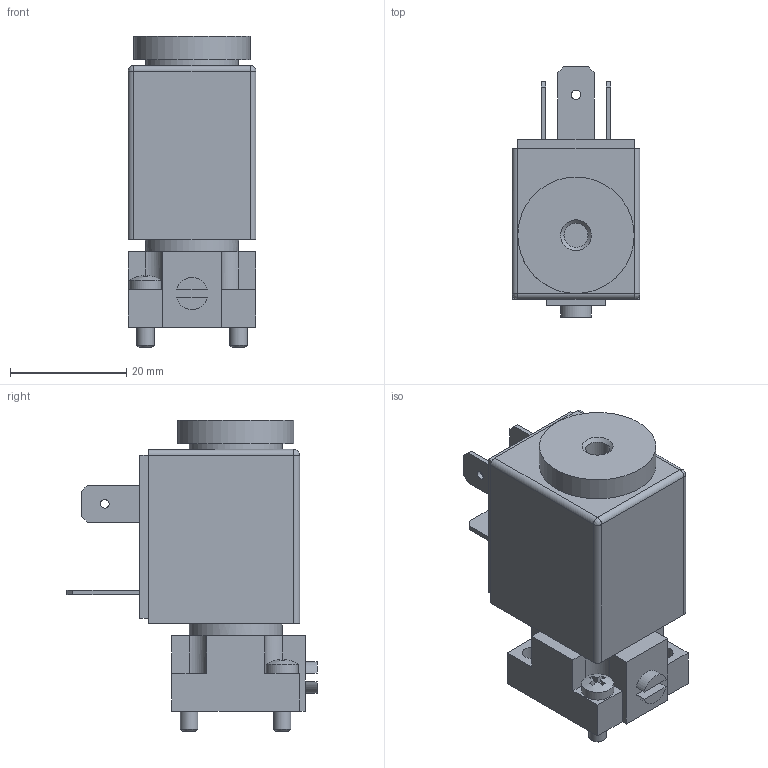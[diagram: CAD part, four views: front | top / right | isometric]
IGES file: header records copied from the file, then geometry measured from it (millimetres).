
Global section: file name: M2-1_##; native system: Autodesk Inventor 2014; preprocessor: unknown; author: A. Manieri; date: 20161003.115514; units: millimetre
Bounding box: 22 x 43 x 53.5 mm (x, y, z)
Volume: 25311.5 mm3; surface area: 10200 mm2
Topology: 4 solids, 4 shells, 147 faces, 386 edges, 263 vertices
Faces by surface type: bspline 147
